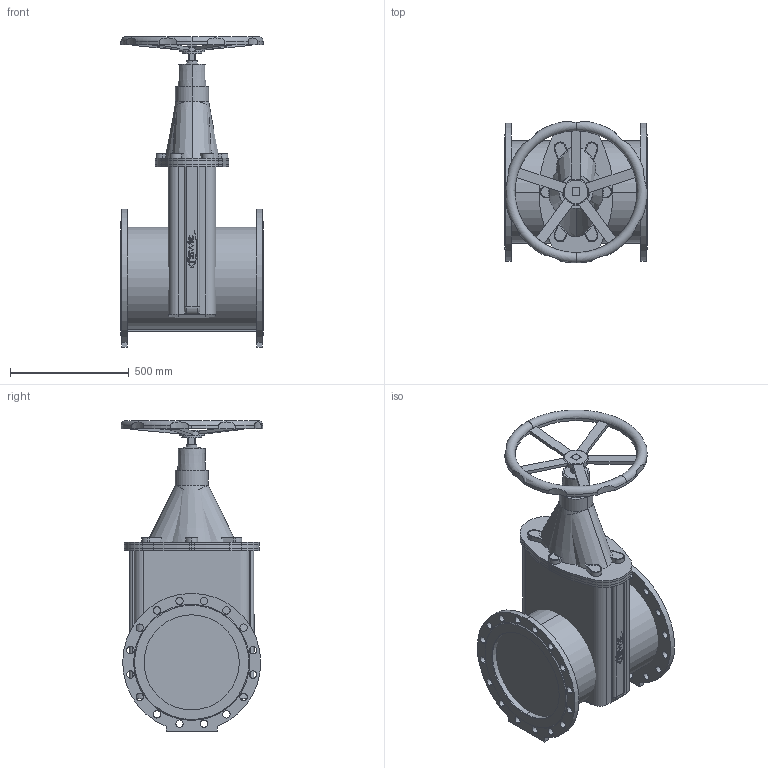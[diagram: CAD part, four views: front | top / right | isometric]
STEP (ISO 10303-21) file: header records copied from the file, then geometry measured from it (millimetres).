
FILE_DESCRIPTION(('STEP AP214'),'1');
FILE_NAME('S:/EK/USER/CAT6/3DHomepage/4700E2/4700E2-PN16-DN400-HANDRAD.STP','2012-04-23T14:52:58',(' '),(' '),'Spatial InterOp 3D',' ',' ');
FILE_SCHEMA(('automotive_design'));
Length unit declared in the file: millimetre
Products named in the file (57): 3D-Objekt
Bounding box: 600 x 595.38 x 1306 mm (x, y, z)
Volume: 172822257.9 mm3; surface area: 5425803.9 mm2
Topology: 57 solids, 57 shells, 584 faces, 1405 edges, 937 vertices
Faces by surface type: plane 286, cylinder 270, cone 14, torus 10, bspline 4
Entity records: 23681 total; most frequent: CARTESIAN_POINT 3341, DIRECTION 3266, ORIENTED_EDGE 2810, EDGE_CURVE 1405, AXIS2_PLACEMENT_3D 1234, VERTEX_POINT 937, LINE 798, VECTOR 798
